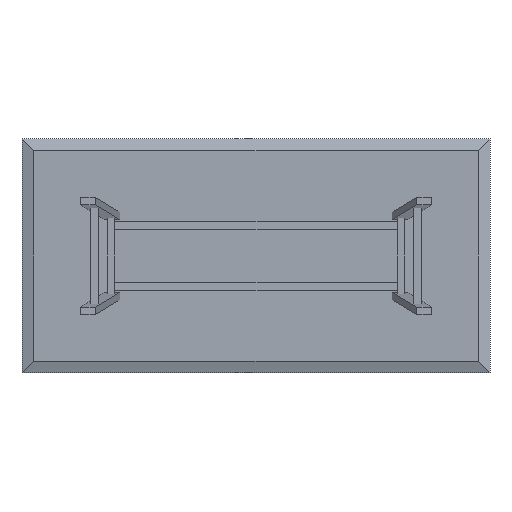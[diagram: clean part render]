
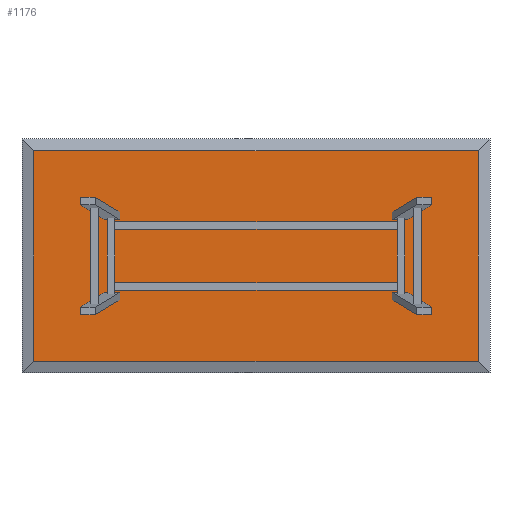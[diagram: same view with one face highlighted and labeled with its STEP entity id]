
A CAD part, front view. The second image highlights one B-rep face of the part: STEP entity #1176.
In plain terms, the highlighted planar face has unit normal (0, -1, 0).
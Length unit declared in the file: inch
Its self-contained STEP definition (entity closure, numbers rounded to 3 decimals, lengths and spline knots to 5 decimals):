
#174=FACE_OUTER_BOUND('',#244,.T.);
#244=EDGE_LOOP('',(#829,#830,#831,#832));
#316=LINE('',#1703,#456);
#317=LINE('',#1706,#457);
#318=LINE('',#1708,#458);
#319=LINE('',#1709,#459);
#456=VECTOR('',#1408,0.3937);
#457=VECTOR('',#1411,0.3937);
#458=VECTOR('',#1412,0.3937);
#459=VECTOR('',#1413,0.3937);
#593=VERTEX_POINT('',#1696);
#596=VERTEX_POINT('',#1701);
#597=VERTEX_POINT('',#1705);
#598=VERTEX_POINT('',#1707);
#688=EDGE_CURVE('',#596,#593,#316,.T.);
#689=EDGE_CURVE('',#597,#596,#317,.T.);
#690=EDGE_CURVE('',#598,#597,#318,.T.);
#691=EDGE_CURVE('',#593,#598,#319,.T.);
#829=ORIENTED_EDGE('',*,*,#688,.F.);
#830=ORIENTED_EDGE('',*,*,#689,.F.);
#831=ORIENTED_EDGE('',*,*,#690,.F.);
#832=ORIENTED_EDGE('',*,*,#691,.F.);
#1106=PLANE('',#1325);
#1176=ADVANCED_FACE('',(#174),#1106,.F.);
#1325=AXIS2_PLACEMENT_3D('',#1704,#1409,#1410);
#1408=DIRECTION('',(0.,0.,1.));
#1409=DIRECTION('center_axis',(0.,1.,0.));
#1410=DIRECTION('ref_axis',(0.,0.,1.));
#1411=DIRECTION('',(-1.,0.,0.));
#1412=DIRECTION('',(0.,0.,-1.));
#1413=DIRECTION('',(1.,0.,0.));
#1696=CARTESIAN_POINT('',(2.40404,0.,-2.40404));
#1701=CARTESIAN_POINT('',(2.40404,0.,-45.59596));
#1703=CARTESIAN_POINT('',(2.40404,0.,-36.));
#1704=CARTESIAN_POINT('Origin',(48.,0.,-24.));
#1705=CARTESIAN_POINT('',(93.59596,0.,-45.59596));
#1706=CARTESIAN_POINT('',(72.,0.,-45.59596));
#1707=CARTESIAN_POINT('',(93.59596,0.,-2.40404));
#1708=CARTESIAN_POINT('',(93.59596,0.,-12.));
#1709=CARTESIAN_POINT('',(24.,0.,-2.40404));
